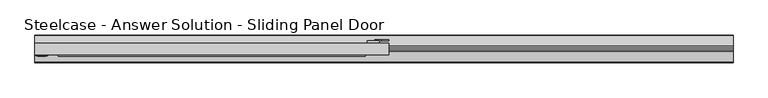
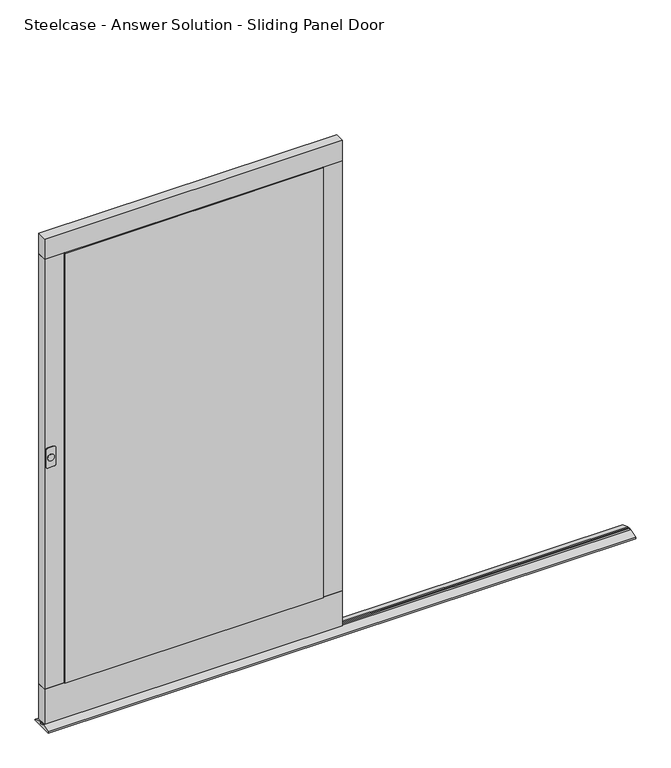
"""IFC4 building model written with IfcOpenShell, lengths in millimetres: furniture geometry."""

from ifc_helpers import new_model, si_unit, point, frame, frame_2d, origin, place, context, project, spatial, polyline, circle_curve, trimmed, segment, composite_curve, outline, extrude, source, transform, mapped, element, save


def steelcase_answer_solution_sliding_panel_door_fc117c03(model_context):
    return source(origin(), model_context, "Body", "SweptSolid", [
        extrude(outline(composite_curve([segment(trimmed(circle_curve(frame_2d((927.0989028, -1835.4278402)), 10.7468772), [point((927.0989028, -1846.1747174))], [point((927.0989028, -1824.680963))], False, "CARTESIAN"), True, "CONTINUOUS"), segment(trimmed(circle_curve(frame_2d((927.0989028, -1835.4278402)), 10.7468772), [point((927.0989028, -1824.680963))], [point((927.0989028, -1846.1747174))], False, "CARTESIAN"), True, "CONTINUOUS")], self_intersect=False)), frame((0.0, -58.27776, 0.0), z_axis=(0.0, 1.0, 0.0), x_axis=(0.0, 0.0, 1.0)), (0.0, 0.0, 1.0), 2.159),
        extrude(outline(polyline([(-914.4, -22.2097635), (-947.42, -22.2097635), (-947.42, -15.6057635), (-914.4, -15.6057635), (-914.4, -22.2097635)])), frame((0.0, 0.0, 828.673924), z_axis=(0.0, 0.0, 1.0), x_axis=(1.0, 0.0, 0.0)), (0.0, 0.0, 1.0), 196.85),
        extrude(outline(composite_curve([segment(trimmed(circle_curve(frame_2d((899.7939028, -1845.34175)), 6.35), [point((899.7939028, -1851.69175))], [point((893.4439028, -1845.34175))], False, "CARTESIAN"), True, "CONTINUOUS"), segment(polyline([(893.4439028, -1845.34175), (893.4439028, -1825.02175)]), True, "CONTINUOUS"), segment(trimmed(circle_curve(frame_2d((899.7939028, -1825.02175)), 6.35), [point((893.4439028, -1825.02175))], [point((899.7939028, -1818.67175))], False, "CARTESIAN"), True, "CONTINUOUS"), segment(polyline([(899.7939028, -1818.67175), (954.4039028, -1818.67175)]), True, "CONTINUOUS"), segment(trimmed(circle_curve(frame_2d((954.4039028, -1825.02175)), 6.35), [point((954.4039028, -1818.67175))], [point((960.7539028, -1825.02175))], False, "CARTESIAN"), True, "CONTINUOUS"), segment(polyline([(960.7539028, -1825.02175), (960.7539028, -1845.34175)]), True, "CONTINUOUS"), segment(trimmed(circle_curve(frame_2d((954.4039028, -1845.34175)), 6.35), [point((960.7539028, -1845.34175))], [point((954.4039028, -1851.69175))], False, "CARTESIAN"), True, "CONTINUOUS"), segment(polyline([(954.4039028, -1851.69175), (899.7939028, -1851.69175)]), True, "CONTINUOUS")], self_intersect=False)), frame((0.0, -56.11876, 0.0), z_axis=(0.0, 1.0, 0.0), x_axis=(0.0, 0.0, 1.0)), (0.0, 0.0, 1.0), 2.1589722),
        extrude(outline(composite_curve([segment(polyline([(958.8489028, -927.2675713), (946.1489028, -927.2675713), (946.1489028, -908.2175713)]), True, "CONTINUOUS"), segment(trimmed(circle_curve(frame_2d((939.7989028, -908.2175713)), 6.35), [point((946.1489028, -908.2175713))], [point((939.7989028, -901.8675713))], True, "CARTESIAN"), True, "CONTINUOUS"), segment(polyline([(939.7989028, -901.8675713), (914.3989028, -901.8675713)]), True, "CONTINUOUS"), segment(trimmed(circle_curve(frame_2d((914.3989028, -908.2175713)), 6.35), [point((914.3989028, -901.8675713))], [point((908.0489028, -908.2175713))], True, "CARTESIAN"), True, "CONTINUOUS"), segment(polyline([(908.0489028, -908.2175713), (908.0489028, -927.2675713), (895.3489028, -927.2675713), (895.3489028, -908.2175713)]), True, "CONTINUOUS"), segment(trimmed(circle_curve(frame_2d((914.3989028, -908.2175713)), 19.05), [point((895.3489028, -908.2175713))], [point((914.3989028, -889.1675713))], False, "CARTESIAN"), True, "CONTINUOUS"), segment(polyline([(914.3989028, -889.1675713), (939.7989028, -889.1675713)]), True, "CONTINUOUS"), segment(trimmed(circle_curve(frame_2d((939.7989028, -908.2175713)), 19.05), [point((939.7989028, -889.1675713))], [point((958.8489028, -908.2175713))], False, "CARTESIAN"), True, "CONTINUOUS"), segment(polyline([(958.8489028, -908.2175713), (958.8489028, -927.2675713)]), True, "CONTINUOUS")], self_intersect=False)), frame((0.0, -15.6057635, 0.0), z_axis=(0.0, 1.0, 0.0), x_axis=(0.0, 0.0, 1.0)), (0.0, 0.0, 1.0), 2.032),
        extrude(outline(polyline([(-889.0, -53.9597878), (-1854.2, -53.9597878), (-1854.2, -22.2097635), (-889.0, -22.2097635), (-889.0, -53.9597878)])), frame((0.0, 0.0, 1610.3589729), z_axis=(0.0, 0.0, 1.0), x_axis=(1.0, 0.0, 0.0)), (0.0, 0.0, 1.0), 69.8499516),
        extrude(outline(polyline([(-1790.7000969, -53.9597878), (-1854.2, -53.9597878), (-1854.2, -22.2097635), (-1790.7000969, -22.2097635), (-1790.7000969, -53.9597878)])), frame((0.0, 0.0, 137.1589275), z_axis=(0.0, 0.0, 1.0), x_axis=(1.0, 0.0, 0.0)), (0.0, 0.0, 1.0), 1473.2000454),
        extrude(outline(polyline([(-889.0, -53.9597878), (-952.4999031, -53.9597878), (-952.4999031, -22.2097635), (-889.0, -22.2097635), (-889.0, -53.9597878)])), frame((0.0, 0.0, 137.1589275), z_axis=(0.0, 0.0, 1.0), x_axis=(1.0, 0.0, 0.0)), (0.0, 0.0, 1.0), 1473.2000454),
        extrude(outline(polyline([(-889.0, -53.9597878), (-1854.2, -53.9597878), (-1854.2, -22.2097635), (-889.0, -22.2097635), (-889.0, -53.9597878)])), frame((0.0, 0.0, 16.5089245), z_axis=(0.0, 0.0, 1.0), x_axis=(1.0, 0.0, 0.0)), (0.0, 0.0, 1.0), 120.650003),
        extrude(outline(polyline([(-952.4999031, -53.9597878), (-952.4999031, -57.7514894), (-1790.7000969, -57.7514894), (-1790.7000969, -53.9597878), (-952.4999031, -53.9597878)])), frame((0.0, 0.0, 137.1589275), z_axis=(0.0, 0.0, 1.0), x_axis=(1.0, 0.0, 0.0)), (0.0, 0.0, 1.0), 1473.2000454),
        extrude(outline(polyline([(-29.8388763, 12.2491055), (-1.9333122, 3.0138476), (0.0, 0.0), (-76.1694786, 0.0), (-74.2361664, 3.0138476), (-46.3306023, 12.2491055), (-46.3306023, 6.2879429), (-39.9806265, 6.2879429), (-39.9806265, 12.6379637), (-36.1889248, 12.6379637), (-36.1889248, 6.2879429), (-29.8388763, 6.2879429), (-29.8388763, 12.2491055)])), frame((-1854.2, 0.0, 0.0), z_axis=(1.0, 0.0, 0.0), x_axis=(0.0, 1.0, 0.0)), (0.0, 0.0, 1.0), 1905.0),
    ])


if __name__ == "__main__":
    model = new_model("IFC4")
    model_context = context("Model", 3, world=origin())
    ifc_project = project(units=[si_unit("LENGTHUNIT", "METRE", prefix="MILLI")], contexts=[model_context])
    site = spatial("IfcSite", under=ifc_project)
    building = spatial("IfcBuilding", under=site)
    placement = place(None, origin())
    steelcase_answer_solution_sliding_panel_door_shape = steelcase_answer_solution_sliding_panel_door_fc117c03(model_context)
    element("IfcFurniture", 1, ObjectType="Steelcase - Answer Solution - Sliding Panel Door : 66\" x 36\" - Right Door Handle & Lock", at=placement, inside=building, context=model_context, shape_type="MappedRepresentation", body=[
        mapped(steelcase_answer_solution_sliding_panel_door_shape, transform((0.0, 0.0, 0.0), x_axis=(1.0, 0.0, 0.0), y_axis=(0.0, 1.0, 0.0), z_axis=(0.0, 0.0, 1.0))),
    ])
    save(model, "model.ifc")
